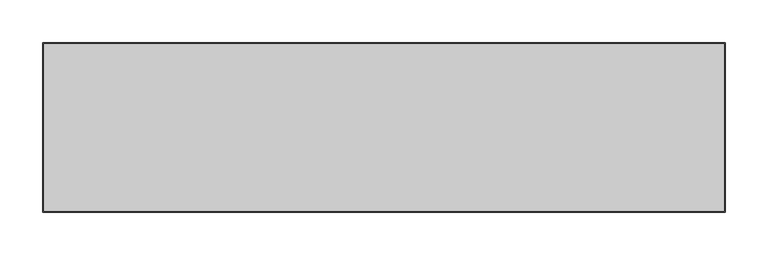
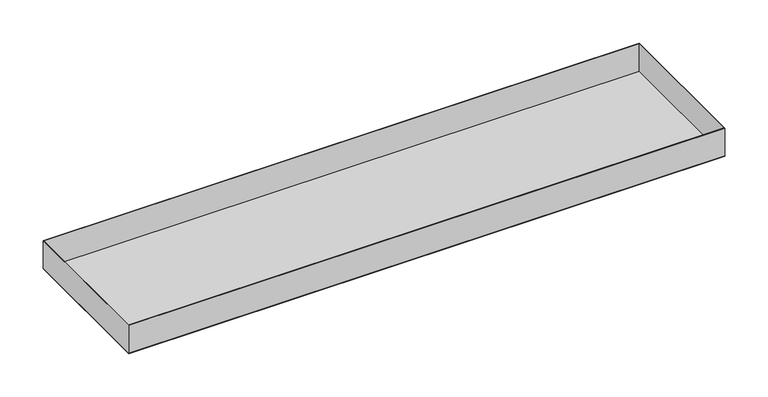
"""IFC4 building model written with IfcOpenShell, lengths in millimetres: proxy geometry, durlum_S4_panel : durlum_S4_panel_wall_corner."""

from ifc_helpers import new_model, si_unit, frame, origin, origin_with_axes, place, context, project, spatial, polyline, outline, extrude, source, transform, mapped, element, save


def generic_models_b01e0852(model_context):
    return source(origin(), model_context, "Body", "SweptSolid", [
        extrude(outline(polyline([(399.0, 99.0), (399.0, -99.0), (-399.0, -99.0), (-399.0, 99.0), (399.0, 99.0)]), holes=[polyline([(398.0, 98.0), (-398.0, 98.0), (-398.0, -98.0), (398.0, -98.0), (398.0, 98.0)])]), frame((0.0, 0.0, 1.0), z_axis=(0.0, 0.0, 1.0), x_axis=(1.0, 0.0, 0.0)), (0.0, 0.0, 1.0), 39.0),
        extrude(outline(polyline([(399.0, 99.0), (399.0, -99.0), (-399.0, -99.0), (-399.0, 99.0), (399.0, 99.0)])), origin_with_axes(), (0.0, 0.0, 1.0), 1.0),
    ])


if __name__ == "__main__":
    model = new_model("IFC4")
    model_context = context("Model", 3, world=origin())
    ifc_project = project(units=[si_unit("LENGTHUNIT", "METRE", prefix="MILLI")], contexts=[model_context])
    site = spatial("IfcSite", under=ifc_project)
    building = spatial("IfcBuilding", under=site)
    placement = place(None, origin())
    generic_models_shape = generic_models_b01e0852(model_context)
    element("IfcBuildingElementProxy", 1, Name="durlum_S4_panel : durlum_S4_panel_wall_corner", ObjectType="durlum_S4_panel : durlum_S4_panel_wall_corner", at=placement, inside=building, context=model_context, shape_type="MappedRepresentation", body=[
        mapped(generic_models_shape, transform((0.0, 0.0, 0.0), x_axis=(1.0, 0.0, 0.0), y_axis=(0.0, 1.0, 0.0), z_axis=(0.0, 0.0, 1.0))),
    ])
    save(model, "model.ifc")
